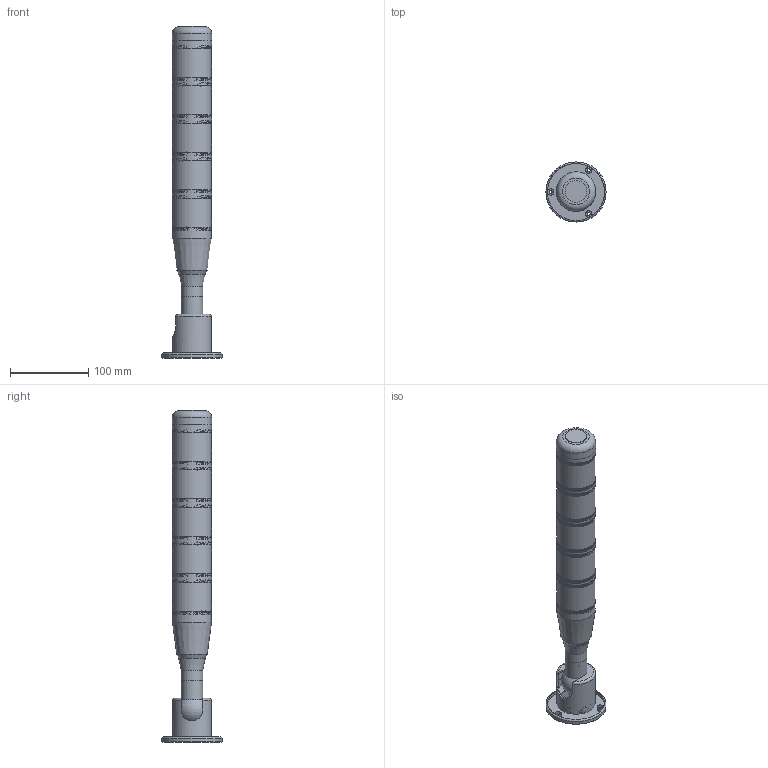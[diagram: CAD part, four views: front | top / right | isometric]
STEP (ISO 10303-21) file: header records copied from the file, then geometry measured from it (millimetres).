
FILE_DESCRIPTION(/* description */ (''),/* implementation_level */ '2;1');
FILE_NAME(/* name */ 'OLE2-501 常亮.stp',/* time_stamp */ '2022-12-13T18:07:42+08:00',/* author */ (''),/* organization */ (''),/* preprocessor_version */ 'ST-DEVELOPER v16.7',/* originating_system */ 'SIEMENS PLM Software NX 12.0',/* authorisation */ '');
FILE_SCHEMA (('AUTOMOTIVE_DESIGN { 1 0 10303 214 3 1 1 1 }'));
Products named in the file (1): Admi15EC76A1t4jo
Bounding box: 77 x 77 x 425.5 mm (x, y, z)
Volume: 213222.9 mm3; surface area: 206458.7 mm2
Topology: 17 solids, 19 shells, 2570 faces, 6202 edges, 4135 vertices
Faces by surface type: plane 2341, cylinder 127, bspline 75, cone 21, torus 4, sphere 2
Full cylindrical faces by diameter (mm): 4 x3, 8 x3, 17.5 x1, 18 x2, 21.5 x1, 22 x1, 23.5 x1, 24.3 x10, 28 x3, 32 x5, 34 x1, 38 x1, 42 x1, 43 x3, 44.2 x5, 45 x1, 46 x6, 46.3 x5, 47 x1, 48 x1, 50 x7, 50.3 x6, 77 x1
Entity records: 103493 total; most frequent: CARTESIAN_POINT 46773, ORIENTED_EDGE 11978, DIRECTION 9935, EDGE_CURVE 5989, LINE 4591, VECTOR 4591, VERTEX_POINT 4027, EDGE_LOOP 3128
